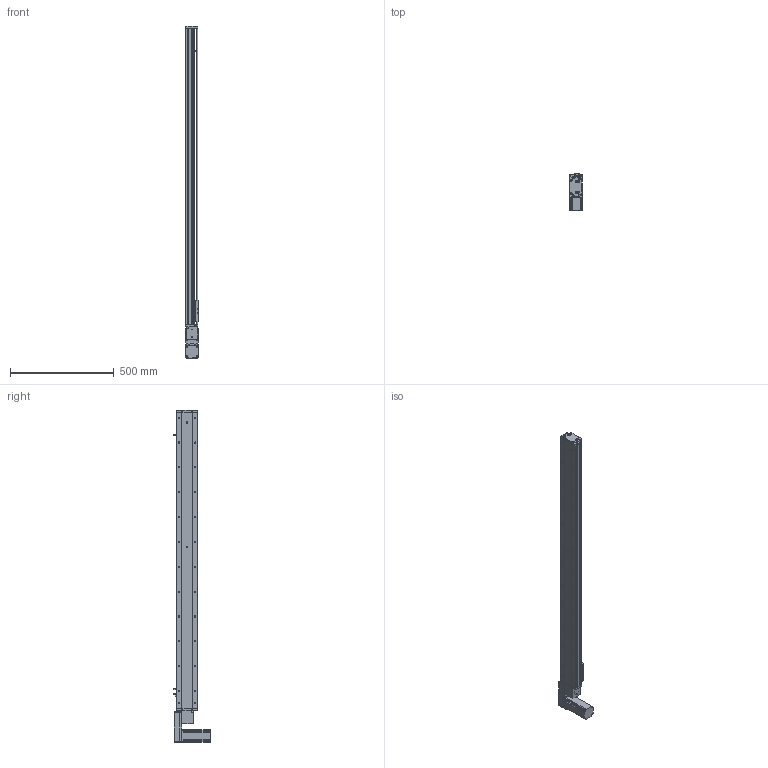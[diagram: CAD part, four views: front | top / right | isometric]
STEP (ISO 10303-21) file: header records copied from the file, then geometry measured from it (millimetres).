
FILE_DESCRIPTION (( 'STEP AP214' ), '1' );
FILE_NAME ('KSD100B-S1250-MLB-CM.STEP', '2019-11-09T06:36:04', ( '微软用户' ), ( '微软中国' ), 'SwSTEP 2.0', 'SolidWorks 2014', '' );
FILE_SCHEMA (( 'AUTOMOTIVE_DESIGN' ));
Length unit declared in the file: millimetre
Products named in the file (12): U倰嫖萇EEㄜSX672; 覜茼え100遵圉猾敕; 100宽防尘板1250行程-同步带; 100宽马达安装板同步带左; 100宽同步带安装板半封闭; 100宽马达安装板同步带; 100遵傷啣肮祭湍; 100宽底板半封闭同步带1250行程; KSD100B-S1250-MLB-CM; 悵誘欶奻狟殏; 100宽马达安装板连板上下折丝杆同步带; 台达ECMA－C20604AS伺服电机
Assembly tree (13 placements, depth 2):
  KSD100B-S1250-MLB-CM
    100宽底板半封闭同步带1250行程
    100遵傷啣肮祭湍
    100宽马达安装板同步带
    100宽同步带安装板半封闭
    100宽马达安装板同步带左
    100宽防尘板1250行程-同步带
    覜茼え100遵圉猾敕
    U倰嫖萇EEㄜSX672  x3
    台达ECMA－C20604AS伺服电机
    100宽马达安装板连板上下折丝杆同步带
    悵誘欶奻狟殏
Bounding box: 61 x 174.7 x 1603 mm (x, y, z)
Volume: 3317540.5 mm3; surface area: 1116270.5 mm2
Topology: 14 solids, 14 shells, 1555 faces, 4398 edges, 2787 vertices
Faces by surface type: cylinder 797, plane 603, cone 155
Entity records: 56275 total; most frequent: CARTESIAN_POINT 11638, DIRECTION 7646, ORIENTED_EDGE 7392, EDGE_CURVE 3696, AXIS2_PLACEMENT_3D 2805, VERTEX_POINT 2411, LINE 2036, VECTOR 2036
